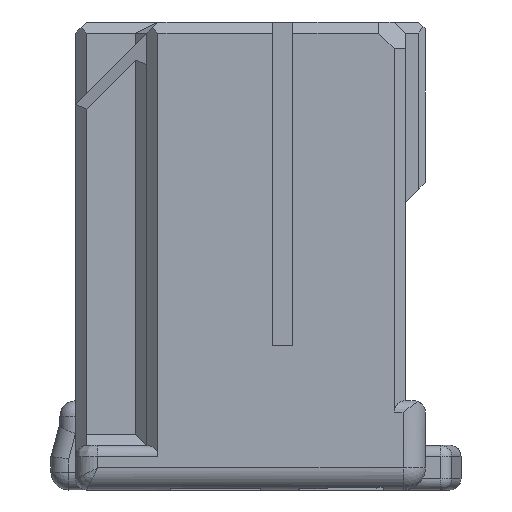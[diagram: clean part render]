
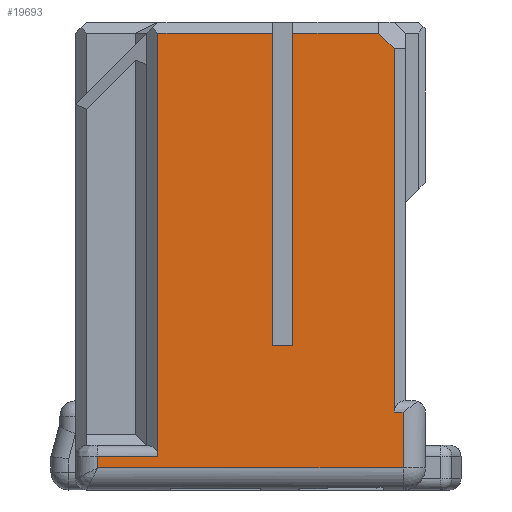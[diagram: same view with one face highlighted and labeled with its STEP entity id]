
A CAD part, left-side view. The second image highlights one B-rep face of the part: STEP entity #19693.
In plain terms, the highlighted planar face has unit normal (-1, 0, 0).
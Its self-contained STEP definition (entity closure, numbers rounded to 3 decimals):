
#3393=DIRECTION('',(0.,0.,-1.));
#3394=VECTOR('',#3393,19.);
#3395=CARTESIAN_POINT('',(-17.6,5.3,-0.5));
#3396=LINE('',#3395,#3394);
#3397=DIRECTION('',(0.,-1.,0.));
#3398=VECTOR('',#3397,0.4);
#3399=CARTESIAN_POINT('',(-17.6,-5.3,-17.5));
#3400=LINE('',#3399,#3398);
#3401=DIRECTION('',(0.,0.,1.));
#3402=VECTOR('',#3401,2.5);
#3403=CARTESIAN_POINT('',(-17.6,-5.7,-20.));
#3404=LINE('',#3403,#3402);
#3405=DIRECTION('',(0.,0.,-1.));
#3406=VECTOR('',#3405,0.5);
#3407=CARTESIAN_POINT('',(-17.6,8.,-19.5));
#3408=LINE('',#3407,#3406);
#3409=DIRECTION('',(0.,-1.,0.));
#3410=VECTOR('',#3409,2.7);
#3411=CARTESIAN_POINT('',(-17.6,8.,-19.5));
#3412=LINE('',#3411,#3410);
#3413=DIRECTION('',(0.,-1.,0.));
#3414=VECTOR('',#3413,5.15);
#3415=CARTESIAN_POINT('',(-17.6,5.3,-0.5));
#3416=LINE('',#3415,#3414);
#3417=DIRECTION('',(0.,0.,-1.));
#3418=VECTOR('',#3417,14.);
#3419=CARTESIAN_POINT('',(-17.6,0.15,-0.5));
#3420=LINE('',#3419,#3418);
#3421=DIRECTION('',(0.,1.,0.));
#3422=VECTOR('',#3421,0.9);
#3423=CARTESIAN_POINT('',(-17.6,-0.75,-14.5));
#3424=LINE('',#3423,#3422);
#3425=DIRECTION('',(0.,0.,-1.));
#3426=VECTOR('',#3425,14.);
#3427=CARTESIAN_POINT('',(-17.6,-0.75,-0.5));
#3428=LINE('',#3427,#3426);
#3429=DIRECTION('',(0.,-1.,0.));
#3430=VECTOR('',#3429,3.85);
#3431=CARTESIAN_POINT('',(-17.6,-0.75,-0.5));
#3432=LINE('',#3431,#3430);
#3433=DIRECTION('',(0.,0.707,0.707));
#3434=VECTOR('',#3433,0.99);
#3435=CARTESIAN_POINT('',(-17.6,-5.3,-1.2));
#3436=LINE('',#3435,#3434);
#7231=DIRECTION('',(0.,-1.,0.));
#7232=VECTOR('',#7231,13.7);
#7233=CARTESIAN_POINT('',(-17.6,8.,-20.));
#7234=LINE('',#7233,#7232);
#8296=CARTESIAN_POINT('',(-17.6,5.3,-19.5));
#10722=DIRECTION('',(0.,0.,1.));
#10723=VECTOR('',#10722,16.3);
#10724=CARTESIAN_POINT('',(-17.6,-5.3,-17.5));
#10725=LINE('',#10724,#10723);
#12653=CARTESIAN_POINT('',(-17.6,-4.6,-0.5));
#12655=VERTEX_POINT('',#12653);
#12660=CARTESIAN_POINT('',(-17.6,-5.3,-1.2));
#12661=VERTEX_POINT('',#12660);
#12844=CARTESIAN_POINT('',(-17.6,-5.3,-17.5));
#12845=CARTESIAN_POINT('',(-17.6,-5.7,-17.5));
#12846=VERTEX_POINT('',#12844);
#12847=VERTEX_POINT('',#12845);
#12856=CARTESIAN_POINT('',(-17.6,8.,-19.5));
#12857=CARTESIAN_POINT('',(-17.6,8.,-20.));
#12858=VERTEX_POINT('',#12856);
#12859=VERTEX_POINT('',#12857);
#12878=CARTESIAN_POINT('',(-17.6,-5.7,-20.));
#12879=VERTEX_POINT('',#12878);
#12963=VERTEX_POINT('',#8296);
#12988=CARTESIAN_POINT('',(-17.6,-0.75,-14.5));
#12989=CARTESIAN_POINT('',(-17.6,0.15,-14.5));
#12990=VERTEX_POINT('',#12988);
#12991=VERTEX_POINT('',#12989);
#12992=CARTESIAN_POINT('',(-17.6,-0.75,-0.5));
#12993=VERTEX_POINT('',#12992);
#12994=CARTESIAN_POINT('',(-17.6,0.15,-0.5));
#12995=VERTEX_POINT('',#12994);
#15214=CARTESIAN_POINT('',(-17.6,5.3,-0.5));
#15215=VERTEX_POINT('',#15214);
#19661=CARTESIAN_POINT('',(-17.6,-5.8,0.));
#19662=DIRECTION('',(-1.,0.,0.));
#19663=DIRECTION('',(0.,1.,0.));
#19664=AXIS2_PLACEMENT_3D('',#19661,#19662,#19663);
#19665=PLANE('',#19664);
#19667=ORIENTED_EDGE('',*,*,#19666,.T.);
#19669=ORIENTED_EDGE('',*,*,#19668,.F.);
#19671=ORIENTED_EDGE('',*,*,#19670,.F.);
#19673=ORIENTED_EDGE('',*,*,#19672,.F.);
#19675=ORIENTED_EDGE('',*,*,#19674,.T.);
#19676=ORIENTED_EDGE('',*,*,#19649,.F.);
#19678=ORIENTED_EDGE('',*,*,#19677,.T.);
#19680=ORIENTED_EDGE('',*,*,#19679,.T.);
#19682=ORIENTED_EDGE('',*,*,#19681,.F.);
#19684=ORIENTED_EDGE('',*,*,#19683,.F.);
#19686=ORIENTED_EDGE('',*,*,#19685,.T.);
#19688=ORIENTED_EDGE('',*,*,#19687,.F.);
#19690=ORIENTED_EDGE('',*,*,#19689,.F.);
#19691=EDGE_LOOP('',(#19667,#19669,#19671,#19673,#19675,#19676,#19678,#19680,
#19682,#19684,#19686,#19688,#19690));
#19692=FACE_OUTER_BOUND('',#19691,.F.);
#19649=EDGE_CURVE('',#15215,#12963,#3396,.T.);
#19666=EDGE_CURVE('',#12846,#12847,#3400,.T.);
#19668=EDGE_CURVE('',#12879,#12847,#3404,.T.);
#19670=EDGE_CURVE('',#12859,#12879,#7234,.T.);
#19672=EDGE_CURVE('',#12858,#12859,#3408,.T.);
#19674=EDGE_CURVE('',#12858,#12963,#3412,.T.);
#19677=EDGE_CURVE('',#15215,#12995,#3416,.T.);
#19679=EDGE_CURVE('',#12995,#12991,#3420,.T.);
#19681=EDGE_CURVE('',#12990,#12991,#3424,.T.);
#19683=EDGE_CURVE('',#12993,#12990,#3428,.T.);
#19685=EDGE_CURVE('',#12993,#12655,#3432,.T.);
#19687=EDGE_CURVE('',#12661,#12655,#3436,.T.);
#19689=EDGE_CURVE('',#12846,#12661,#10725,.T.);
#19693=ADVANCED_FACE('',(#19692),#19665,.T.);
